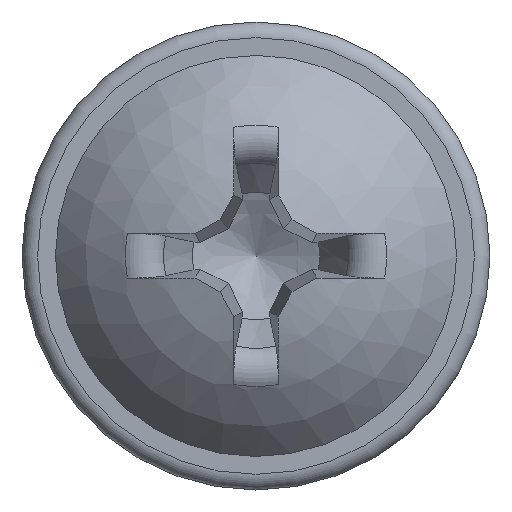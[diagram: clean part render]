
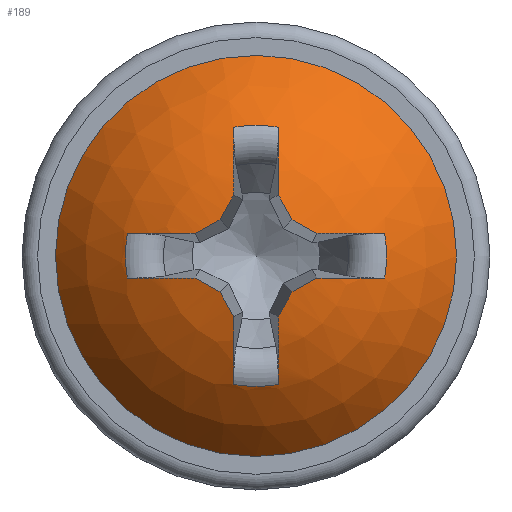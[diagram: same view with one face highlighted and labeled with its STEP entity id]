
A CAD part, top view. The second image highlights one B-rep face of the part: STEP entity #189.
In plain terms, the highlighted spherical face has radius 7.356 mm.
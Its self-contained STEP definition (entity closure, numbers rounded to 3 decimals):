
#150=SPHERICAL_SURFACE('',#1082,7.356);
#161=FACE_BOUND('',#311,.T.);
#162=FACE_BOUND('',#312,.T.);
#189=ADVANCED_FACE('',(#161,#162),#150,.T.);
#311=EDGE_LOOP('',(#448));
#312=EDGE_LOOP('',(#449,#450,#451,#452,#453,#454,#455,#456,#457,#458,#459,
#460,#461,#462,#463,#464,#465,#466,#467,#468));
#384=CIRCLE('',#1061,6.);
#385=CIRCLE('',#1062,7.356);
#386=CIRCLE('',#1063,3.906);
#387=CIRCLE('',#1064,7.356);
#388=CIRCLE('',#1065,7.32);
#389=CIRCLE('',#1066,7.32);
#390=CIRCLE('',#1067,7.356);
#391=CIRCLE('',#1068,3.906);
#392=CIRCLE('',#1069,7.356);
#393=CIRCLE('',#1070,7.32);
#394=CIRCLE('',#1071,7.32);
#395=CIRCLE('',#1072,7.356);
#396=CIRCLE('',#1073,3.906);
#397=CIRCLE('',#1074,7.356);
#398=CIRCLE('',#1075,7.32);
#399=CIRCLE('',#1076,7.32);
#400=CIRCLE('',#1077,7.356);
#401=CIRCLE('',#1078,3.906);
#402=CIRCLE('',#1079,7.356);
#403=CIRCLE('',#1080,7.32);
#404=CIRCLE('',#1081,7.32);
#448=ORIENTED_EDGE('',*,*,#850,.T.);
#449=ORIENTED_EDGE('',*,*,#851,.F.);
#450=ORIENTED_EDGE('',*,*,#852,.T.);
#451=ORIENTED_EDGE('',*,*,#853,.F.);
#452=ORIENTED_EDGE('',*,*,#854,.F.);
#453=ORIENTED_EDGE('',*,*,#855,.F.);
#454=ORIENTED_EDGE('',*,*,#856,.F.);
#455=ORIENTED_EDGE('',*,*,#857,.T.);
#456=ORIENTED_EDGE('',*,*,#858,.F.);
#457=ORIENTED_EDGE('',*,*,#859,.F.);
#458=ORIENTED_EDGE('',*,*,#860,.F.);
#459=ORIENTED_EDGE('',*,*,#861,.F.);
#460=ORIENTED_EDGE('',*,*,#862,.T.);
#461=ORIENTED_EDGE('',*,*,#863,.F.);
#462=ORIENTED_EDGE('',*,*,#864,.F.);
#463=ORIENTED_EDGE('',*,*,#865,.F.);
#464=ORIENTED_EDGE('',*,*,#866,.F.);
#465=ORIENTED_EDGE('',*,*,#867,.T.);
#466=ORIENTED_EDGE('',*,*,#868,.F.);
#467=ORIENTED_EDGE('',*,*,#869,.F.);
#468=ORIENTED_EDGE('',*,*,#870,.F.);
#748=VERTEX_POINT('',#2208);
#749=VERTEX_POINT('',#2210);
#750=VERTEX_POINT('',#2211);
#751=VERTEX_POINT('',#2213);
#752=VERTEX_POINT('',#2215);
#753=VERTEX_POINT('',#2217);
#754=VERTEX_POINT('',#2219);
#755=VERTEX_POINT('',#2221);
#756=VERTEX_POINT('',#2223);
#757=VERTEX_POINT('',#2225);
#758=VERTEX_POINT('',#2227);
#759=VERTEX_POINT('',#2229);
#760=VERTEX_POINT('',#2231);
#761=VERTEX_POINT('',#2233);
#762=VERTEX_POINT('',#2235);
#763=VERTEX_POINT('',#2237);
#764=VERTEX_POINT('',#2239);
#765=VERTEX_POINT('',#2241);
#766=VERTEX_POINT('',#2243);
#767=VERTEX_POINT('',#2245);
#768=VERTEX_POINT('',#2247);
#850=EDGE_CURVE('',#748,#748,#384,.T.);
#851=EDGE_CURVE('',#749,#750,#385,.T.);
#852=EDGE_CURVE('',#749,#751,#386,.T.);
#853=EDGE_CURVE('',#752,#751,#387,.T.);
#854=EDGE_CURVE('',#753,#752,#388,.T.);
#855=EDGE_CURVE('',#754,#753,#389,.T.);
#856=EDGE_CURVE('',#755,#754,#390,.T.);
#857=EDGE_CURVE('',#755,#756,#391,.T.);
#858=EDGE_CURVE('',#757,#756,#392,.T.);
#859=EDGE_CURVE('',#758,#757,#393,.T.);
#860=EDGE_CURVE('',#759,#758,#394,.T.);
#861=EDGE_CURVE('',#760,#759,#395,.T.);
#862=EDGE_CURVE('',#760,#761,#396,.T.);
#863=EDGE_CURVE('',#762,#761,#397,.T.);
#864=EDGE_CURVE('',#763,#762,#398,.T.);
#865=EDGE_CURVE('',#764,#763,#399,.T.);
#866=EDGE_CURVE('',#765,#764,#400,.T.);
#867=EDGE_CURVE('',#765,#766,#401,.T.);
#868=EDGE_CURVE('',#767,#766,#402,.T.);
#869=EDGE_CURVE('',#768,#767,#403,.T.);
#870=EDGE_CURVE('',#750,#768,#404,.T.);
#1061=AXIS2_PLACEMENT_3D('',#2207,#1148,#1149);
#1062=AXIS2_PLACEMENT_3D('',#2209,#1150,#1151);
#1063=AXIS2_PLACEMENT_3D('',#2212,#1152,#1153);
#1064=AXIS2_PLACEMENT_3D('',#2214,#1154,#1155);
#1065=AXIS2_PLACEMENT_3D('',#2216,#1156,#1157);
#1066=AXIS2_PLACEMENT_3D('',#2218,#1158,#1159);
#1067=AXIS2_PLACEMENT_3D('',#2220,#1160,#1161);
#1068=AXIS2_PLACEMENT_3D('',#2222,#1162,#1163);
#1069=AXIS2_PLACEMENT_3D('',#2224,#1164,#1165);
#1070=AXIS2_PLACEMENT_3D('',#2226,#1166,#1167);
#1071=AXIS2_PLACEMENT_3D('',#2228,#1168,#1169);
#1072=AXIS2_PLACEMENT_3D('',#2230,#1170,#1171);
#1073=AXIS2_PLACEMENT_3D('',#2232,#1172,#1173);
#1074=AXIS2_PLACEMENT_3D('',#2234,#1174,#1175);
#1075=AXIS2_PLACEMENT_3D('',#2236,#1176,#1177);
#1076=AXIS2_PLACEMENT_3D('',#2238,#1178,#1179);
#1077=AXIS2_PLACEMENT_3D('',#2240,#1180,#1181);
#1078=AXIS2_PLACEMENT_3D('',#2242,#1182,#1183);
#1079=AXIS2_PLACEMENT_3D('',#2244,#1184,#1185);
#1080=AXIS2_PLACEMENT_3D('',#2246,#1186,#1187);
#1081=AXIS2_PLACEMENT_3D('',#2248,#1188,#1189);
#1082=AXIS2_PLACEMENT_3D('',#2249,#1190,#1191);
#1148=DIRECTION('',(0.,0.,1.));
#1149=DIRECTION('',(1.,0.,0.));
#1150=DIRECTION('',(-0.035,0.996,0.087));
#1151=DIRECTION('',(0.,-0.087,0.996));
#1152=DIRECTION('',(0.,0.,-1.));
#1153=DIRECTION('',(-1.,0.,0.));
#1154=DIRECTION('',(-0.035,-0.996,0.087));
#1155=DIRECTION('',(0.,-0.087,-0.996));
#1156=DIRECTION('',(0.467,-0.879,0.1));
#1157=DIRECTION('',(0.883,0.469,0.));
#1158=DIRECTION('',(0.879,-0.467,0.1));
#1159=DIRECTION('',(0.469,0.883,0.));
#1160=DIRECTION('',(0.996,0.035,0.087));
#1161=DIRECTION('',(0.087,0.,-0.996));
#1162=DIRECTION('',(0.,0.,-1.));
#1163=DIRECTION('',(-1.,0.,0.));
#1164=DIRECTION('',(-0.996,0.035,0.087));
#1165=DIRECTION('',(0.087,0.,0.996));
#1166=DIRECTION('',(-0.879,-0.467,0.1));
#1167=DIRECTION('',(0.469,-0.883,0.));
#1168=DIRECTION('',(-0.467,-0.879,0.1));
#1169=DIRECTION('',(0.883,-0.469,0.));
#1170=DIRECTION('',(0.035,-0.996,0.087));
#1171=DIRECTION('',(0.,-0.087,-0.996));
#1172=DIRECTION('',(0.,0.,-1.));
#1173=DIRECTION('',(-1.,0.,0.));
#1174=DIRECTION('',(0.035,0.996,0.087));
#1175=DIRECTION('',(0.,-0.087,0.996));
#1176=DIRECTION('',(-0.467,0.879,0.1));
#1177=DIRECTION('',(-0.883,-0.469,0.));
#1178=DIRECTION('',(-0.879,0.467,0.1));
#1179=DIRECTION('',(-0.469,-0.883,0.));
#1180=DIRECTION('',(-0.996,-0.035,0.087));
#1181=DIRECTION('',(0.087,0.,0.996));
#1182=DIRECTION('',(0.,0.,-1.));
#1183=DIRECTION('',(-1.,0.,0.));
#1184=DIRECTION('',(0.996,-0.035,0.087));
#1185=DIRECTION('',(0.087,0.,-0.996));
#1186=DIRECTION('',(0.879,0.467,0.1));
#1187=DIRECTION('',(-0.469,0.883,0.));
#1188=DIRECTION('',(0.467,0.879,0.1));
#1189=DIRECTION('',(-0.883,0.469,0.));
#1190=DIRECTION('',(0.,0.,1.));
#1191=DIRECTION('',(0.,1.,0.));
#2207=CARTESIAN_POINT('',(0.,0.,1.5));
#2208=CARTESIAN_POINT('',(6.,0.,1.5));
#2209=CARTESIAN_POINT('',(-0.001,0.016,-2.755));
#2210=CARTESIAN_POINT('',(-3.85,-0.664,3.477));
#2211=CARTESIAN_POINT('',(-1.822,-0.668,4.34));
#2212=CARTESIAN_POINT('',(0.,0.,3.477));
#2213=CARTESIAN_POINT('',(-3.85,0.664,3.477));
#2214=CARTESIAN_POINT('',(-0.001,-0.016,-2.755));
#2215=CARTESIAN_POINT('',(-1.822,0.668,4.34));
#2216=CARTESIAN_POINT('',(-0.34,0.639,-2.829));
#2217=CARTESIAN_POINT('',(-1.076,1.076,4.441));
#2218=CARTESIAN_POINT('',(-0.639,0.34,-2.829));
#2219=CARTESIAN_POINT('',(-0.668,1.822,4.34));
#2220=CARTESIAN_POINT('',(0.016,0.001,-2.755));
#2221=CARTESIAN_POINT('',(-0.664,3.85,3.477));
#2222=CARTESIAN_POINT('',(0.,0.,3.477));
#2223=CARTESIAN_POINT('',(0.664,3.85,3.477));
#2224=CARTESIAN_POINT('',(-0.016,0.001,-2.755));
#2225=CARTESIAN_POINT('',(0.668,1.822,4.34));
#2226=CARTESIAN_POINT('',(0.639,0.34,-2.829));
#2227=CARTESIAN_POINT('',(1.076,1.076,4.441));
#2228=CARTESIAN_POINT('',(0.34,0.639,-2.829));
#2229=CARTESIAN_POINT('',(1.822,0.668,4.34));
#2230=CARTESIAN_POINT('',(0.001,-0.016,-2.755));
#2231=CARTESIAN_POINT('',(3.85,0.664,3.477));
#2232=CARTESIAN_POINT('',(0.,0.,3.477));
#2233=CARTESIAN_POINT('',(3.85,-0.664,3.477));
#2234=CARTESIAN_POINT('',(0.001,0.016,-2.755));
#2235=CARTESIAN_POINT('',(1.822,-0.668,4.34));
#2236=CARTESIAN_POINT('',(0.34,-0.639,-2.829));
#2237=CARTESIAN_POINT('',(1.076,-1.076,4.441));
#2238=CARTESIAN_POINT('',(0.639,-0.34,-2.829));
#2239=CARTESIAN_POINT('',(0.668,-1.822,4.34));
#2240=CARTESIAN_POINT('',(-0.016,-0.001,-2.755));
#2241=CARTESIAN_POINT('',(0.664,-3.85,3.477));
#2242=CARTESIAN_POINT('',(0.,0.,3.477));
#2243=CARTESIAN_POINT('',(-0.664,-3.85,3.477));
#2244=CARTESIAN_POINT('',(0.016,-0.001,-2.755));
#2245=CARTESIAN_POINT('',(-0.668,-1.822,4.34));
#2246=CARTESIAN_POINT('',(-0.639,-0.34,-2.829));
#2247=CARTESIAN_POINT('',(-1.076,-1.076,4.441));
#2248=CARTESIAN_POINT('',(-0.34,-0.639,-2.829));
#2249=CARTESIAN_POINT('',(0.,0.,-2.756));
